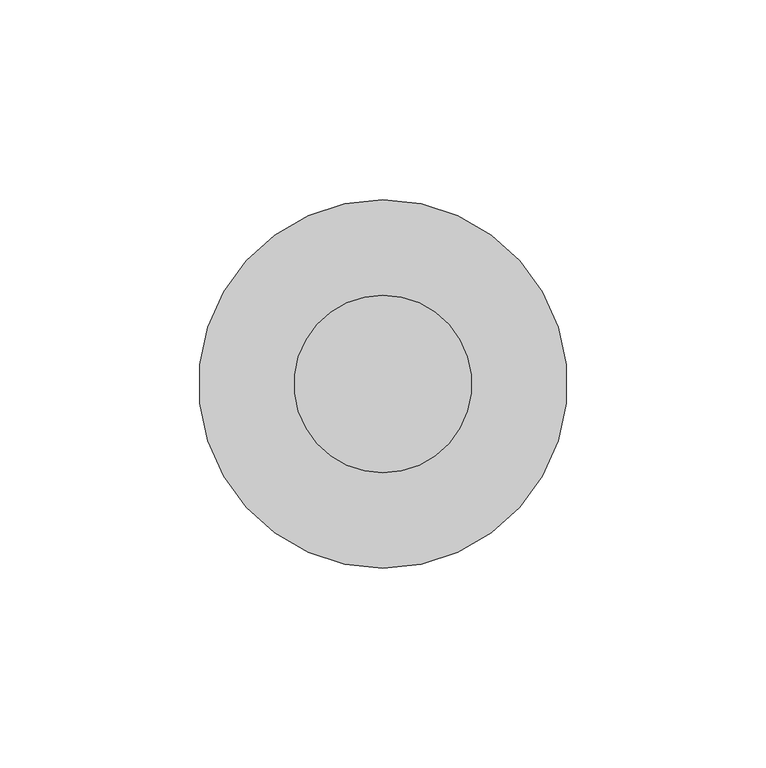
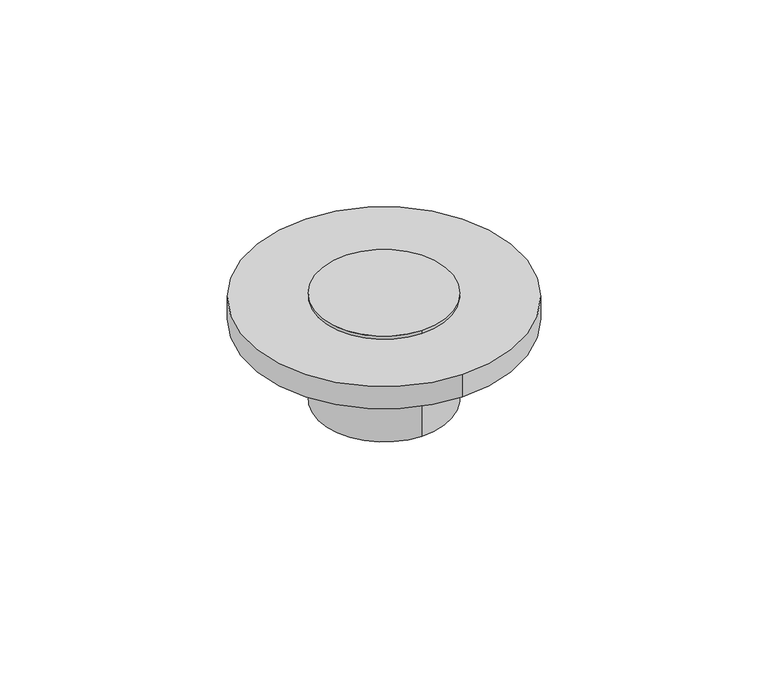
"""IFC4 building model written with IfcOpenShell, lengths in millimetres: light fixture geometry, LSLDR00_SURFACE MOUNT BASIC : LSLDR00W-T40."""

from ifc_helpers import new_model, si_unit, point, frame, frame_2d, origin, origin_with_axes, place, context, project, spatial, circle_curve, trimmed, segment, composite_curve, outline, extrude, source, transform, mapped, element, save


def light_fixture_613aeaec(model_context):
    return source(origin(), model_context, "Body", "SweptSolid", [
        extrude(outline(composite_curve([segment(trimmed(circle_curve(frame_2d((0.0, -33.7992882)), 46.0375), [point((0.0, 12.2382118))], [point((0.0, -79.8367882))], False, "CARTESIAN"), True, "CONTINUOUS"), segment(trimmed(circle_curve(frame_2d((0.0, -33.7992882)), 46.0375), [point((0.0, -79.8367882))], [point((0.0, 12.2382118))], False, "CARTESIAN"), True, "CONTINUOUS")], self_intersect=False)), origin_with_axes(), (0.0, 0.0, 1.0), 7.9375),
        extrude(outline(composite_curve([segment(trimmed(circle_curve(frame_2d((0.0, -33.7992882)), 22.225), [point((0.0, -11.5742882))], [point((0.0, -56.0242882))], False, "CARTESIAN"), True, "CONTINUOUS"), segment(trimmed(circle_curve(frame_2d((0.0, -33.7992882)), 22.225), [point((0.0, -56.0242882))], [point((0.0, -11.5742882))], False, "CARTESIAN"), True, "CONTINUOUS")], self_intersect=False)), frame((0.0, 0.0, 7.9375), z_axis=(0.0, 0.0, 1.0), x_axis=(1.0, 0.0, 0.0)), (0.0, 0.0, 1.0), 1.3880793),
        extrude(outline(composite_curve([segment(trimmed(circle_curve(frame_2d((0.0, -33.7992882)), 22.225), [point((0.0, -11.5742882))], [point((0.0, -56.0242882))], False, "CARTESIAN"), True, "CONTINUOUS"), segment(trimmed(circle_curve(frame_2d((0.0, -33.7992882)), 22.225), [point((0.0, -56.0242882))], [point((0.0, -11.5742882))], False, "CARTESIAN"), True, "CONTINUOUS")], self_intersect=False)), frame((0.0, 0.0, -28.575), z_axis=(0.0, 0.0, 1.0), x_axis=(1.0, 0.0, 0.0)), (0.0, 0.0, 1.0), 28.575),
    ])


if __name__ == "__main__":
    model = new_model("IFC4")
    model_context = context("Model", 3, world=origin())
    ifc_project = project(units=[si_unit("LENGTHUNIT", "METRE", prefix="MILLI")], contexts=[model_context])
    site = spatial("IfcSite", under=ifc_project)
    building = spatial("IfcBuilding", under=site)
    placement = place(None, origin())
    light_fixture_shape = light_fixture_613aeaec(model_context)
    element("IfcLightFixture", 1, ObjectType="LSLDR00_SURFACE MOUNT BASIC : LSLDR00W-T40", at=placement, inside=building, context=model_context, shape_type="MappedRepresentation", body=[
        mapped(light_fixture_shape, transform((0.0, 0.0, 0.0), x_axis=(1.0, 0.0, 0.0), y_axis=(0.0, 1.0, 0.0), z_axis=(0.0, 0.0, 1.0))),
    ])
    save(model, "model.ifc")
